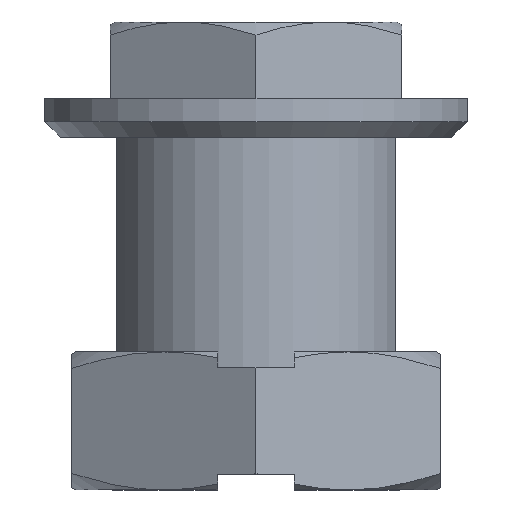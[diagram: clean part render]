
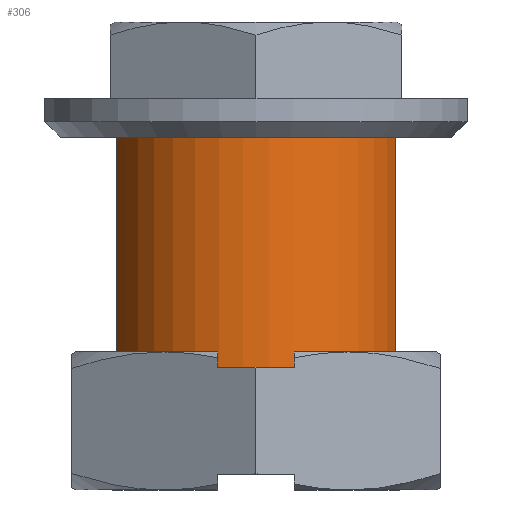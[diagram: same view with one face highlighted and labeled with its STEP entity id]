
A CAD part, left-side view. The second image highlights one B-rep face of the part: STEP entity #306.
In plain terms, the highlighted cylindrical face has radius 9.45 mm (diameter 18.9 mm), a partial arc.
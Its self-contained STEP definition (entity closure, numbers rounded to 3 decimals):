
#306=ADVANCED_FACE('',(#608),#609,.T.);
#608=FACE_OUTER_BOUND('',#918,.T.);
#609=CYLINDRICAL_SURFACE('',#919,9.45);
#918=EDGE_LOOP('',(#1671,#1672,#1673,#1674));
#919=AXIS2_PLACEMENT_3D('',#1675,#1676,#1677);
#1671=ORIENTED_EDGE('',*,*,#2180,.F.);
#1672=ORIENTED_EDGE('',*,*,#2191,.T.);
#1673=ORIENTED_EDGE('',*,*,#2192,.F.);
#1674=ORIENTED_EDGE('',*,*,#2193,.F.);
#1675=CARTESIAN_POINT('',(0.0,0.0,15.0));
#1676=DIRECTION('',(0.0,0.0,-1.0));
#1677=DIRECTION('',(-1.0,0.0,0.0));
#2180=EDGE_CURVE('',#2676,#2662,#2678,.F.);
#2191=EDGE_CURVE('',#2676,#2694,#2695,.T.);
#2192=EDGE_CURVE('',#2696,#2694,#2697,.T.);
#2193=EDGE_CURVE('',#2662,#2696,#2698,.T.);
#2662=VERTEX_POINT('',#3488);
#2676=VERTEX_POINT('',#3511);
#2678=LINE('',#3514,#3515);
#2694=VERTEX_POINT('',#3533);
#2695=CIRCLE('',#3534,9.45);
#2696=VERTEX_POINT('',#3535);
#2697=LINE('',#3536,#3537);
#2698=CIRCLE('',#3538,9.45);
#3488=CARTESIAN_POINT('',(-2.5,9.113,15.0));
#3511=CARTESIAN_POINT('',(-2.5,9.113,0.));
#3514=CARTESIAN_POINT('',(-2.5,9.113,15.0));
#3515=VECTOR('',#3933,1.0);
#3533=CARTESIAN_POINT('',(-2.5,-9.113,0.));
#3534=AXIS2_PLACEMENT_3D('',#3954,#3955,#3956);
#3535=CARTESIAN_POINT('',(-2.5,-9.113,15.0));
#3536=CARTESIAN_POINT('',(-2.5,-9.113,15.0));
#3537=VECTOR('',#3957,1.0);
#3538=AXIS2_PLACEMENT_3D('',#3958,#3959,#3960);
#3933=DIRECTION('',(0.0,0.0,-1.0));
#3954=CARTESIAN_POINT('',(0.0,0.0,0.0));
#3955=DIRECTION('',(0.0,0.0,1.0));
#3956=DIRECTION('',(1.0,0.0,0.0));
#3957=DIRECTION('',(0.0,0.0,-1.0));
#3958=CARTESIAN_POINT('',(0.0,0.0,15.0));
#3959=DIRECTION('',(0.0,0.0,1.0));
#3960=DIRECTION('',(1.0,0.0,0.0));
